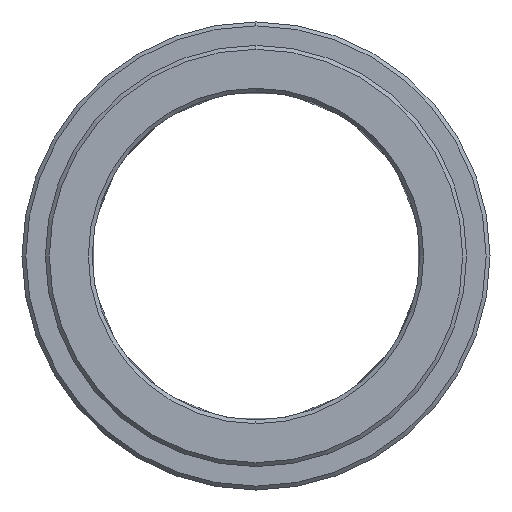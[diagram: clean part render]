
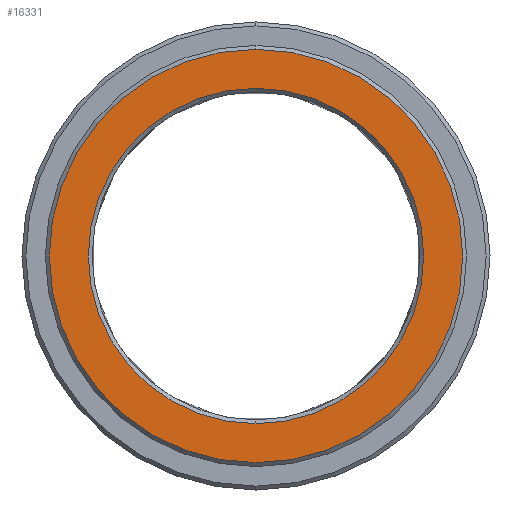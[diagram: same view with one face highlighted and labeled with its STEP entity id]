
A CAD part, left-side view. The second image highlights one B-rep face of the part: STEP entity #16331.
In plain terms, the highlighted planar face has unit normal (-1, 0, 0).
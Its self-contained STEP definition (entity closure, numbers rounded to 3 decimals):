
#11430=CARTESIAN_POINT('',(-10.,0.,0.));
#11431=DIRECTION('',(1.,0.,0.));
#11432=DIRECTION('',(0.,0.,1.));
#11433=AXIS2_PLACEMENT_3D('',#11430,#11431,#11432);
#11435=CARTESIAN_POINT('',(-10.,0.,0.));
#11436=DIRECTION('',(1.,0.,0.));
#11437=DIRECTION('',(0.,0.,-1.));
#11438=AXIS2_PLACEMENT_3D('',#11435,#11436,#11437);
#11440=CARTESIAN_POINT('',(-10.,0.,
0.));
#11441=DIRECTION('',(1.,0.,0.));
#11442=DIRECTION('',(0.,0.,1.));
#11443=AXIS2_PLACEMENT_3D('',#11440,#11441,#11442);
#11445=CARTESIAN_POINT('',(-10.,0.,
0.));
#11446=DIRECTION('',(1.,0.,0.));
#11447=DIRECTION('',(0.,0.,-1.));
#11448=AXIS2_PLACEMENT_3D('',#11445,#11446,#11447);
#12064=CARTESIAN_POINT('',(-10.,0.,21.5));
#12065=CARTESIAN_POINT('',(-10.,0.,
-21.5));
#12066=VERTEX_POINT('',#12064);
#12067=VERTEX_POINT('',#12065);
#12072=CARTESIAN_POINT('',(-10.,0.,26.5));
#12073=CARTESIAN_POINT('',(-10.,0.,
-26.5));
#12074=VERTEX_POINT('',#12072);
#12075=VERTEX_POINT('',#12073);
#16316=CARTESIAN_POINT('',(-10.,0.,0.));
#16317=DIRECTION('',(1.,0.,0.));
#16318=DIRECTION('',(0.,0.,1.));
#16319=AXIS2_PLACEMENT_3D('',#16316,#16317,#16318);
#16320=PLANE('',#16319);
#16321=ORIENTED_EDGE('',*,*,#16283,.T.);
#16322=ORIENTED_EDGE('',*,*,#16298,.T.);
#16323=EDGE_LOOP('',(#16321,#16322));
#16324=FACE_OUTER_BOUND('',#16323,.F.);
#16326=ORIENTED_EDGE('',*,*,#16325,.F.);
#16328=ORIENTED_EDGE('',*,*,#16327,.F.);
#16329=EDGE_LOOP('',(#16326,#16328));
#16330=FACE_BOUND('',#16329,.F.);
#16331=ADVANCED_FACE('',(#16324,#16330),#16320,.F.);
#11434=CIRCLE('',#11433,26.5);
#11439=CIRCLE('',#11438,26.5);
#11444=CIRCLE('',#11443,21.5);
#11449=CIRCLE('',#11448,21.5);
#16283=EDGE_CURVE('',#12074,#12075,#11434,.T.);
#16298=EDGE_CURVE('',#12075,#12074,#11439,.T.);
#16325=EDGE_CURVE('',#12066,#12067,#11444,.T.);
#16327=EDGE_CURVE('',#12067,#12066,#11449,.T.);
